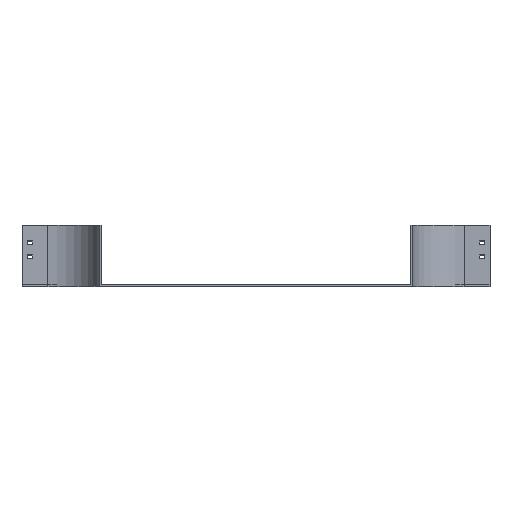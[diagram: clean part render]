
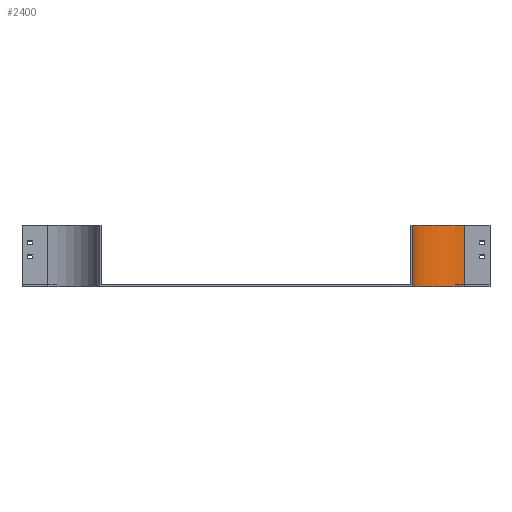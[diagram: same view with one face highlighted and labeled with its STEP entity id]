
A CAD part, top view. The second image highlights one B-rep face of the part: STEP entity #2400.
In plain terms, the highlighted cylindrical face has radius 100 mm (diameter 200 mm), a partial arc.
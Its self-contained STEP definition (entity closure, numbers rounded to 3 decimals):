
#34 = CARTESIAN_POINT ( 'NONE',  ( 0., 0., -100. ) ) ;
#74 = EDGE_CURVE ( 'NONE', #192, #1699, #1489, .T. ) ;
#87 = EDGE_CURVE ( 'NONE', #3081, #1699, #3407, .T. ) ;
#104 = ORIENTED_EDGE ( 'NONE', *, *, #74, .T. ) ;
#152 = CARTESIAN_POINT ( 'NONE',  ( 0., 117.5, 0. ) ) ;
#165 = DIRECTION ( 'NONE',  ( 0., -1., 0. ) ) ;
#192 = VERTEX_POINT ( 'NONE', #484 ) ;
#275 = AXIS2_PLACEMENT_3D ( 'NONE', #324, #2685, #3571 ) ;
#324 = CARTESIAN_POINT ( 'NONE',  ( 0., 117.5, 0. ) ) ;
#392 = CYLINDRICAL_SURFACE ( 'NONE', #800, 100. ) ;
#484 = CARTESIAN_POINT ( 'NONE',  ( -100., 0., 0. ) ) ;
#541 = CARTESIAN_POINT ( 'NONE',  ( -100., 117.5, 0. ) ) ;
#800 = AXIS2_PLACEMENT_3D ( 'NONE', #152, #1308, #3696 ) ;
#835 = ORIENTED_EDGE ( 'NONE', *, *, #3181, .T. ) ;
#888 = DIRECTION ( 'NONE',  ( 0., -1., 0. ) ) ;
#922 = EDGE_LOOP ( 'NONE', ( #104, #1619, #2456, #835 ) ) ;
#1021 = DIRECTION ( 'NONE',  ( 0., -1., 0. ) ) ;
#1043 = CARTESIAN_POINT ( 'NONE',  ( 0., 0., 0. ) ) ;
#1176 = VECTOR ( 'NONE', #1021, 1000. ) ;
#1212 = VECTOR ( 'NONE', #888, 1000. ) ;
#1308 = DIRECTION ( 'NONE',  ( 0., -1., 0. ) ) ;
#1368 = DIRECTION ( 'NONE',  ( 0., 0., -1. ) ) ;
#1489 = CIRCLE ( 'NONE', #2339, 100. ) ;
#1522 = CARTESIAN_POINT ( 'NONE',  ( 0., 117.5, -100. ) ) ;
#1619 = ORIENTED_EDGE ( 'NONE', *, *, #87, .F. ) ;
#1621 = CARTESIAN_POINT ( 'NONE',  ( -100., 117.5, 0. ) ) ;
#1699 = VERTEX_POINT ( 'NONE', #34 ) ;
#1972 = EDGE_CURVE ( 'NONE', #2865, #3081, #3122, .T. ) ;
#2339 = AXIS2_PLACEMENT_3D ( 'NONE', #1043, #165, #1368 ) ;
#2400 = ADVANCED_FACE ( 'NONE', ( #2782 ), #392, .F. ) ;
#2456 = ORIENTED_EDGE ( 'NONE', *, *, #1972, .F. ) ;
#2685 = DIRECTION ( 'NONE',  ( 0., -1., 0. ) ) ;
#2782 = FACE_OUTER_BOUND ( 'NONE', #922, .T. ) ;
#2865 = VERTEX_POINT ( 'NONE', #1621 ) ;
#3081 = VERTEX_POINT ( 'NONE', #1522 ) ;
#3122 = CIRCLE ( 'NONE', #275, 100. ) ;
#3181 = EDGE_CURVE ( 'NONE', #2865, #192, #3203, .T. ) ;
#3203 = LINE ( 'NONE', #541, #1212 ) ;
#3407 = LINE ( 'NONE', #3710, #1176 ) ;
#3571 = DIRECTION ( 'NONE',  ( 0., 0., -1. ) ) ;
#3696 = DIRECTION ( 'NONE',  ( 0., 0., -1. ) ) ;
#3710 = CARTESIAN_POINT ( 'NONE',  ( 0., 117.5, -100. ) ) ;
